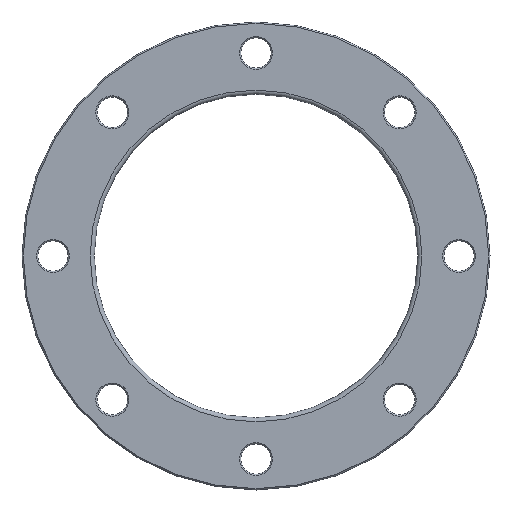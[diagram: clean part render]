
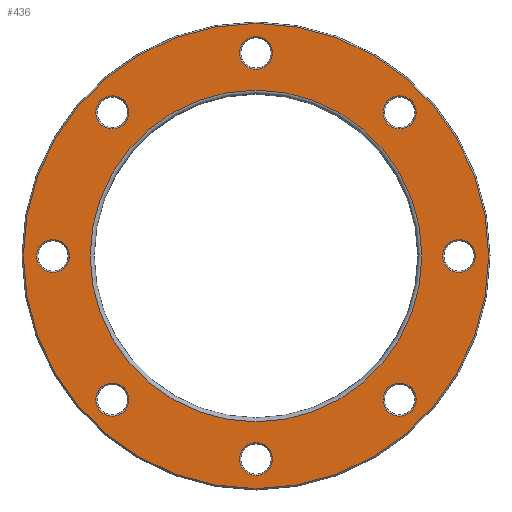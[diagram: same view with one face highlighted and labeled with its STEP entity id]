
A CAD part, front view. The second image highlights one B-rep face of the part: STEP entity #436.
In plain terms, the highlighted planar face has unit normal (0, -1, 0).
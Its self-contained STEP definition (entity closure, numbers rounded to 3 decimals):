
#23=PLANE('',#516);
#98=ORIENTED_EDGE('',*,*,#157,.T.);
#99=ORIENTED_EDGE('',*,*,#158,.T.);
#100=ORIENTED_EDGE('',*,*,#124,.T.);
#101=ORIENTED_EDGE('',*,*,#128,.T.);
#102=ORIENTED_EDGE('',*,*,#132,.T.);
#103=ORIENTED_EDGE('',*,*,#136,.T.);
#104=ORIENTED_EDGE('',*,*,#140,.T.);
#105=ORIENTED_EDGE('',*,*,#144,.T.);
#106=ORIENTED_EDGE('',*,*,#148,.T.);
#107=ORIENTED_EDGE('',*,*,#159,.T.);
#124=EDGE_CURVE('',#164,#164,#204,.T.);
#128=EDGE_CURVE('',#168,#168,#208,.T.);
#132=EDGE_CURVE('',#172,#172,#212,.T.);
#136=EDGE_CURVE('',#176,#176,#216,.T.);
#140=EDGE_CURVE('',#180,#180,#220,.T.);
#144=EDGE_CURVE('',#184,#184,#224,.T.);
#148=EDGE_CURVE('',#188,#188,#228,.T.);
#157=EDGE_CURVE('',#197,#197,#237,.F.);
#158=EDGE_CURVE('',#198,#198,#238,.T.);
#159=EDGE_CURVE('',#199,#199,#239,.T.);
#164=VERTEX_POINT('',#683);
#168=VERTEX_POINT('',#694);
#172=VERTEX_POINT('',#705);
#176=VERTEX_POINT('',#716);
#180=VERTEX_POINT('',#727);
#184=VERTEX_POINT('',#738);
#188=VERTEX_POINT('',#749);
#197=VERTEX_POINT('',#772);
#198=VERTEX_POINT('',#774);
#199=VERTEX_POINT('',#776);
#204=CIRCLE('',#461,12.);
#208=CIRCLE('',#468,12.);
#212=CIRCLE('',#475,12.);
#216=CIRCLE('',#482,12.);
#220=CIRCLE('',#489,12.);
#224=CIRCLE('',#496,12.);
#228=CIRCLE('',#503,12.);
#237=CIRCLE('',#517,169.);
#238=CIRCLE('',#518,120.5);
#239=CIRCLE('',#519,12.);
#298=EDGE_LOOP('',(#98));
#299=EDGE_LOOP('',(#99));
#300=EDGE_LOOP('',(#100));
#301=EDGE_LOOP('',(#101));
#302=EDGE_LOOP('',(#102));
#303=EDGE_LOOP('',(#103));
#304=EDGE_LOOP('',(#104));
#305=EDGE_LOOP('',(#105));
#306=EDGE_LOOP('',(#106));
#307=EDGE_LOOP('',(#107));
#378=FACE_BOUND('',#298,.T.);
#379=FACE_BOUND('',#299,.T.);
#380=FACE_BOUND('',#300,.T.);
#381=FACE_BOUND('',#301,.T.);
#382=FACE_BOUND('',#302,.T.);
#383=FACE_BOUND('',#303,.T.);
#384=FACE_BOUND('',#304,.T.);
#385=FACE_BOUND('',#305,.T.);
#386=FACE_BOUND('',#306,.T.);
#387=FACE_BOUND('',#307,.T.);
#436=ADVANCED_FACE('',(#378,#379,#380,#381,#382,#383,#384,#385,#386,#387),
#23,.F.);
#461=AXIS2_PLACEMENT_3D('',#682,#539,#540);
#468=AXIS2_PLACEMENT_3D('',#693,#553,#554);
#475=AXIS2_PLACEMENT_3D('',#704,#567,#568);
#482=AXIS2_PLACEMENT_3D('',#715,#581,#582);
#489=AXIS2_PLACEMENT_3D('',#726,#595,#596);
#496=AXIS2_PLACEMENT_3D('',#737,#609,#610);
#503=AXIS2_PLACEMENT_3D('',#748,#623,#624);
#516=AXIS2_PLACEMENT_3D('',#770,#649,#650);
#517=AXIS2_PLACEMENT_3D('',#771,#651,#652);
#518=AXIS2_PLACEMENT_3D('',#773,#653,#654);
#519=AXIS2_PLACEMENT_3D('',#775,#655,#656);
#539=DIRECTION('',(0.,1.,0.));
#540=DIRECTION('',(0.707,0.,0.707));
#553=DIRECTION('',(0.,1.,0.));
#554=DIRECTION('',(0.,0.,1.));
#567=DIRECTION('',(0.,1.,0.));
#568=DIRECTION('',(-0.707,0.,0.707));
#581=DIRECTION('',(0.,1.,0.));
#582=DIRECTION('',(-1.,0.,0.));
#595=DIRECTION('',(0.,1.,0.));
#596=DIRECTION('',(-0.707,0.,-0.707));
#609=DIRECTION('',(0.,1.,0.));
#610=DIRECTION('',(0.,0.,-1.));
#623=DIRECTION('',(0.,1.,0.));
#624=DIRECTION('',(0.707,0.,-0.707));
#649=DIRECTION('',(0.,1.,0.));
#650=DIRECTION('',(0.,0.,1.));
#651=DIRECTION('',(0.,1.,0.));
#652=DIRECTION('',(0.,0.,1.));
#653=DIRECTION('',(0.,1.,0.));
#654=DIRECTION('',(0.,0.,1.));
#655=DIRECTION('',(0.,1.,0.));
#656=DIRECTION('',(1.,0.,0.));
#682=CARTESIAN_POINT('',(-104.298,0.,104.298));
#683=CARTESIAN_POINT('',(-95.813,0.,112.784));
#693=CARTESIAN_POINT('',(-147.5,0.,0.));
#694=CARTESIAN_POINT('',(-147.5,0.,12.));
#704=CARTESIAN_POINT('',(-104.298,0.,-104.298));
#705=CARTESIAN_POINT('',(-112.784,0.,-95.813));
#715=CARTESIAN_POINT('',(0.,0.,-147.5));
#716=CARTESIAN_POINT('',(-12.,0.,-147.5));
#726=CARTESIAN_POINT('',(104.298,0.,-104.298));
#727=CARTESIAN_POINT('',(95.813,0.,-112.784));
#737=CARTESIAN_POINT('',(147.5,0.,0.));
#738=CARTESIAN_POINT('',(147.5,0.,-12.));
#748=CARTESIAN_POINT('',(104.298,0.,104.298));
#749=CARTESIAN_POINT('',(112.784,0.,95.813));
#770=CARTESIAN_POINT('',(0.,0.,0.));
#771=CARTESIAN_POINT('',(0.,0.,0.));
#772=CARTESIAN_POINT('',(0.,0.,169.));
#773=CARTESIAN_POINT('',(0.,0.,0.));
#774=CARTESIAN_POINT('',(0.,0.,120.5));
#775=CARTESIAN_POINT('',(0.,0.,147.5));
#776=CARTESIAN_POINT('',(12.,0.,147.5));
